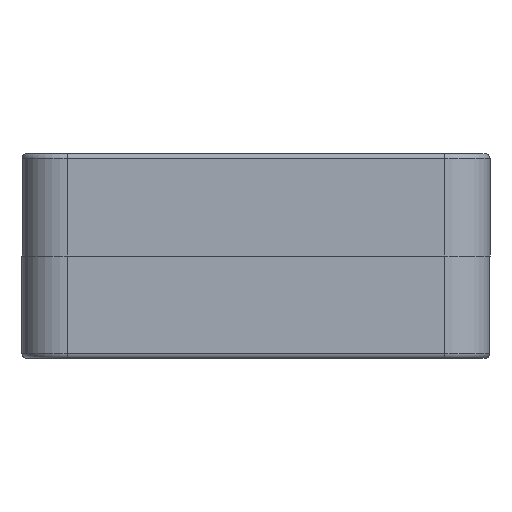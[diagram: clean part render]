
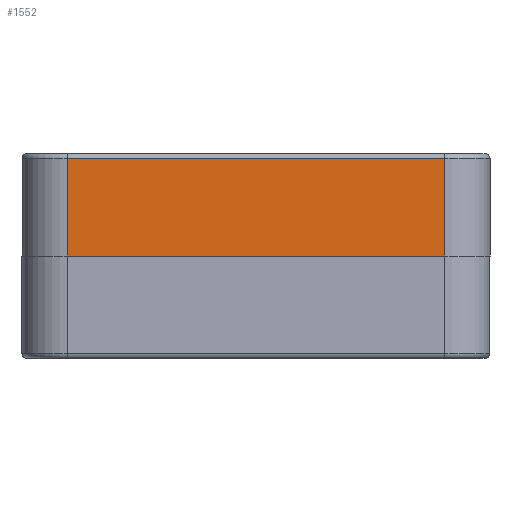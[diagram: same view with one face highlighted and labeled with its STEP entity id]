
A CAD part, front view. The second image highlights one B-rep face of the part: STEP entity #1552.
In plain terms, the highlighted planar face has unit normal (0, -1, 0).
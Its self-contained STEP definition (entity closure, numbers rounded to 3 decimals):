
#254=DIRECTION('',(0.,0.,1.));
#255=VECTOR('',#254,2.15);
#256=CARTESIAN_POINT('',(-24.05,10.4,0.));
#257=LINE('',#256,#255);
#262=DIRECTION('',(1.,0.,0.));
#263=VECTOR('',#262,8.3);
#264=CARTESIAN_POINT('',(-24.05,10.4,0.));
#265=LINE('',#264,#263);
#270=DIRECTION('',(0.,0.,-1.));
#271=VECTOR('',#270,2.15);
#272=CARTESIAN_POINT('',(-15.75,10.4,2.15));
#273=LINE('',#272,#271);
#884=DIRECTION('',(1.,0.,0.));
#885=VECTOR('',#884,8.3);
#886=CARTESIAN_POINT('',(-24.05,10.4,2.15));
#887=LINE('',#886,#885);
#1014=CARTESIAN_POINT('',(-15.75,10.4,0.));
#1015=VERTEX_POINT('',#1014);
#1016=CARTESIAN_POINT('',(-24.05,10.4,0.));
#1017=VERTEX_POINT('',#1016);
#1066=CARTESIAN_POINT('',(-15.75,10.4,2.15));
#1067=VERTEX_POINT('',#1066);
#1068=CARTESIAN_POINT('',(-24.05,10.4,2.15));
#1069=VERTEX_POINT('',#1068);
#1539=CARTESIAN_POINT('',(-24.05,10.4,-2.25));
#1540=DIRECTION('',(0.,-1.,0.));
#1541=DIRECTION('',(1.,0.,0.));
#1542=AXIS2_PLACEMENT_3D('',#1539,#1540,#1541);
#1543=PLANE('',#1542);
#1545=ORIENTED_EDGE('',*,*,#1544,.T.);
#1546=ORIENTED_EDGE('',*,*,#1316,.F.);
#1547=ORIENTED_EDGE('',*,*,#1530,.T.);
#1549=ORIENTED_EDGE('',*,*,#1548,.T.);
#1550=EDGE_LOOP('',(#1545,#1546,#1547,#1549));
#1551=FACE_OUTER_BOUND('',#1550,.F.);
#1552=ADVANCED_FACE('',(#1551),#1543,.T.);
#1316=EDGE_CURVE('',#1017,#1015,#265,.T.);
#1530=EDGE_CURVE('',#1017,#1069,#257,.T.);
#1544=EDGE_CURVE('',#1067,#1015,#273,.T.);
#1548=EDGE_CURVE('',#1069,#1067,#887,.T.);
